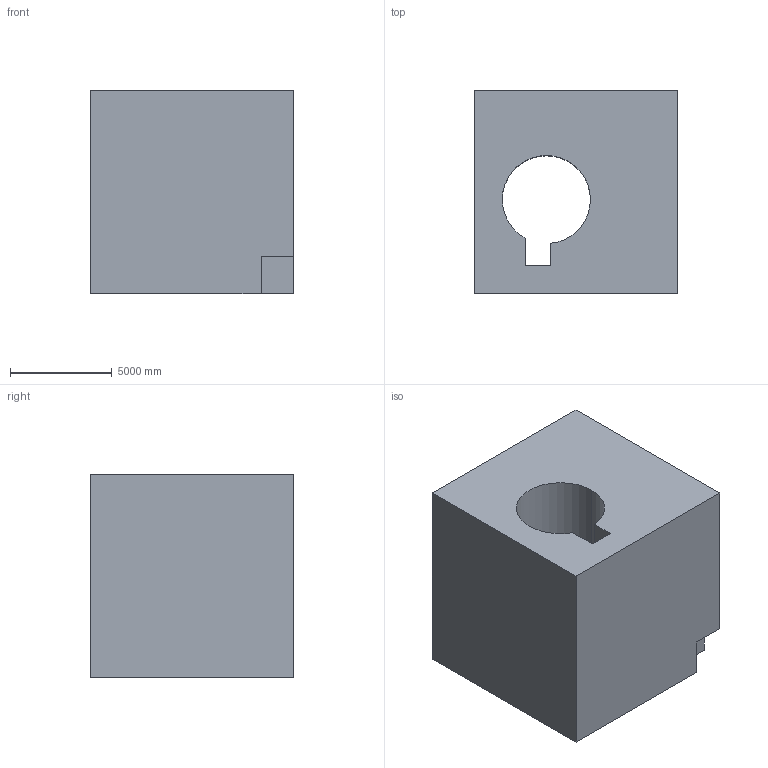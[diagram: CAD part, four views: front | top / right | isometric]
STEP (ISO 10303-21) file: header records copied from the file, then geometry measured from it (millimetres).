
FILE_DESCRIPTION (( 'STEP AP203' ), '1' );
FILE_NAME ('1264.STEP', '2022-08-18T13:27:45', ( 'user' ), ( '' ), 'SwSTEP 2.0', 'SolidWorks 2021', '' );
FILE_SCHEMA (( 'CONFIG_CONTROL_DESIGN' ));
Length unit declared in the file: centimetre
Products named in the file (1): 1264
Bounding box: 10000 x 10000 x 10000 mm (x, y, z)
Volume: 834792184290.2 mm3; surface area: 727845654.7 mm2
Topology: 1 solids, 1 shells, 15 faces, 39 edges, 26 vertices
Faces by surface type: plane 12, cylinder 3
Entity records: 540 total; most frequent: CARTESIAN_POINT 81, ORIENTED_EDGE 78, DIRECTION 77, EDGE_CURVE 39, VECTOR 33, LINE 33, VERTEX_POINT 26, AXIS2_PLACEMENT_3D 22
